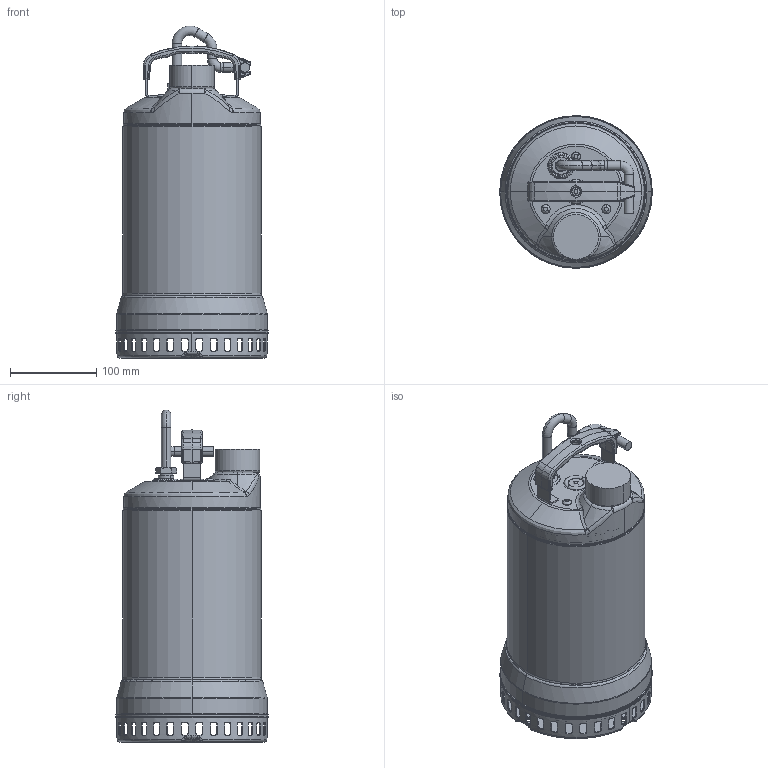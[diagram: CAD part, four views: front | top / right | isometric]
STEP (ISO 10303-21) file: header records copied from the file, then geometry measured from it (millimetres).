
FILE_DESCRIPTION (( 'STEP AP214' ), '1' );
FILE_NAME ('XD-07(3D¹ê¾÷).STEP', '2024-01-12T06:35:00', ( '' ), ( '' ), 'SwSTEP 2.0', 'SolidWorks 2018', '' );
FILE_SCHEMA (( 'AUTOMOTIVE_DESIGN' ));
Length unit declared in the file: millimetre
Products named in the file (19): Product-1^XD-07組立(3D)(2)_XD-07組合件(3D實機); XD-07泵浦蓋(實); Product-61^XD-07組立(3D)(2)_XD-07組合件(3D實機); Product-0^XD-07組立(3D)(2)_XD-07組合件(3D實機); XD-07 外筒(實); Product-36^XD-07組立(3D)(2)_XD-07組合件(3D實機); Product-35^XD-07組立(3D)(2)_XD-07組合件(3D實機); Product-6^XD-07組立(3D)(2)_XD-07組合件(3D實機); Product-38^XD-07組立(3D)(2)_XD-07組合件(3D實機); Product^XD-07組立(3D)(2)_XD-07組合件(3D實機); Product-4^XD-07組立(3D)(2)_XD-07組合件(3D實機); XD-07(3D實機); Product-37^XD-07組立(3D)(2)_XD-07組合件(3D實機); XD-07²Õ¥ß(3D)-prt82^XD-07²Õ¥ß(3D)(2)_XD-07²Õ¦X¥ó(3D¹ê¾÷); XD-07-電纜組裝示意圖; XD-07泵室(實); XD-07電纜示意圖-2; XD-07電纜線-示意圖; XD-07組立(3D)(2)^XD-07組合件(3D實機)
Assembly tree (17 placements, depth 3):
  XD-07(3D實機)
    XD-07組立(3D)(2)^XD-07組合件(3D實機)
      Product^XD-07組立(3D)(2)_XD-07組合件(3D實機)
      Product-0^XD-07組立(3D)(2)_XD-07組合件(3D實機)
      Product-1^XD-07組立(3D)(2)_XD-07組合件(3D實機)
      XD-07 外筒(實)
      Product-4^XD-07組立(3D)(2)_XD-07組合件(3D實機)
      Product-6^XD-07組立(3D)(2)_XD-07組合件(3D實機)
      XD-07泵室(實)
      Product-35^XD-07組立(3D)(2)_XD-07組合件(3D實機)
      Product-36^XD-07組立(3D)(2)_XD-07組合件(3D實機)
      Product-37^XD-07組立(3D)(2)_XD-07組合件(3D實機)
      Product-38^XD-07組立(3D)(2)_XD-07組合件(3D實機)
      Product-61^XD-07組立(3D)(2)_XD-07組合件(3D實機)
      XD-07泵浦蓋(實)
    XD-07-電纜組裝示意圖
      XD-07電纜線-示意圖
      XD-07電纜示意圖-2
  XD-07²Õ¥ß(3D)-prt82^XD-07²Õ¥ß(3D)(2)_XD-07²Õ¦X¥ó(3D¹ê¾÷)
Bounding box: 177 x 177 x 385.72 mm (x, y, z)
Volume: 6343673.5 mm3; surface area: 440217.7 mm2
Topology: 15 solids, 15 shells, 1221 faces, 3187 edges, 1993 vertices
Faces by surface type: cylinder 510, plane 304, cone 138, torus 132, bspline 107, sphere 30
Entity records: 48230 total; most frequent: CARTESIAN_POINT 19275, ORIENTED_EDGE 6338, DIRECTION 5357, EDGE_CURVE 3169, AXIS2_PLACEMENT_3D 2112, VERTEX_POINT 1993, EDGE_LOOP 1316, ADVANCED_FACE 1221
